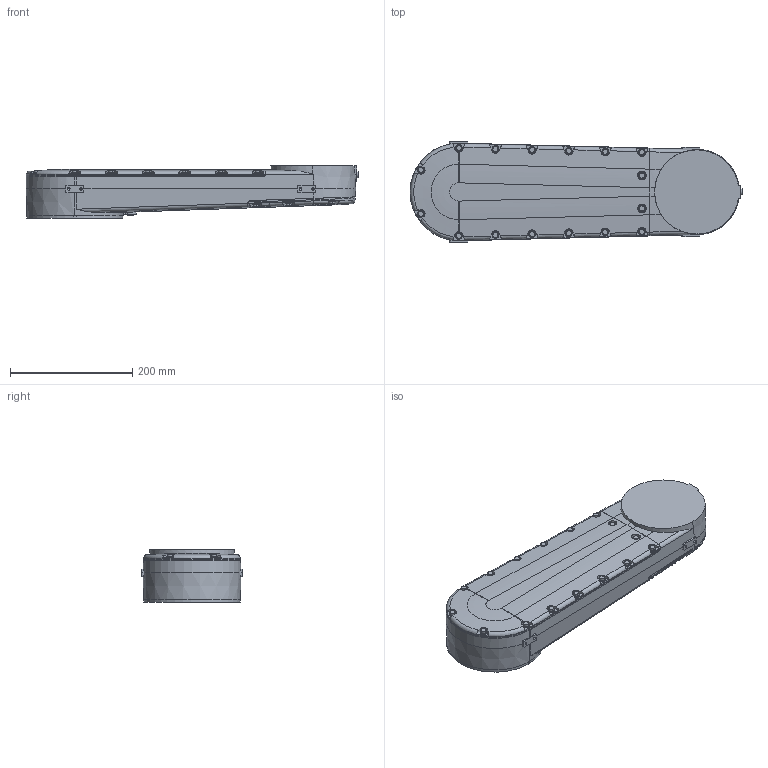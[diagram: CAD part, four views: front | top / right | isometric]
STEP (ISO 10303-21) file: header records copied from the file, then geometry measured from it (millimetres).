
FILE_DESCRIPTION (( 'STEP AP214' ), '1' );
FILE_NAME ('IRB920T_6kg-650-300-STD_OmniCore_rev00_LINK1_CAD.step', '2021-08-23T03:30:15', ( '' ), ( '' ), 'SwSTEP 2.0', 'SolidWorks 2018', '' );
FILE_SCHEMA (( 'AUTOMOTIVE_DESIGN' ));
Length unit declared in the file: millimetre
Products named in the file (1): IRB920T_6kg-650-300-STD_OmniCore_rev00_LINK1_CAD
Bounding box: 544 x 164 x 86 mm (x, y, z)
Volume: 5144060.2 mm3; surface area: 241067.1 mm2
Topology: 1 solids, 1 shells, 453 faces, 1138 edges, 733 vertices
Faces by surface type: plane 184, cylinder 155, cone 73, bspline 35, torus 6
Entity records: 18252 total; most frequent: CARTESIAN_POINT 8164, ORIENTED_EDGE 2244, DIRECTION 1853, EDGE_CURVE 1122, VERTEX_POINT 733, AXIS2_PLACEMENT_3D 679, EDGE_LOOP 515, VECTOR 495
